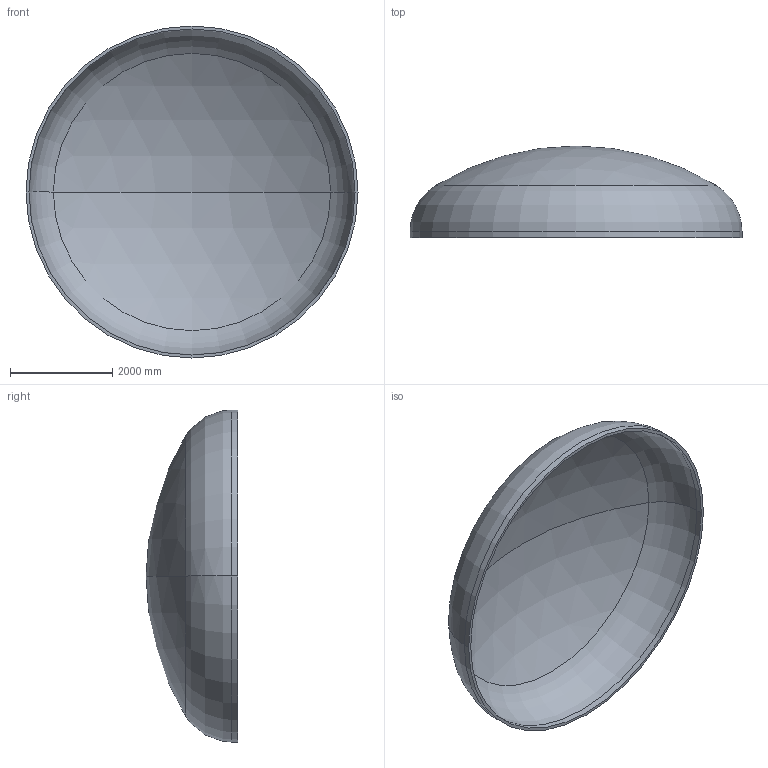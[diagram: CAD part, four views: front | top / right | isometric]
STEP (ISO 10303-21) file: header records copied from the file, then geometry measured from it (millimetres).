
FILE_DESCRIPTION (( 'STEP AP203' ), '1' );
FILE_NAME ('DIN 28013 Korbbogenform_-_Boden DIN 28013 - 6500 x 120 - I - s=58.step', '2016-07-04T10:42:40', ( '' ), ( '' ), 'SwSTEP 2.0', 'SolidWorks 2013', '' );
FILE_SCHEMA (( 'CONFIG_CONTROL_DESIGN' ));
Length unit declared in the file: millimetre
Products named in the file (1): DIN 28013 Korbbogenform_-_Boden DIN 28013 - 6500 x 120 - I - s=58
Bounding box: 6500 x 1795.38 x 6500 mm (x, y, z)
Volume: 2774647296 mm3; surface area: 96858313.8 mm2
Topology: 1 solids, 1 shells, 13 faces, 24 edges, 14 vertices
Faces by surface type: torus 4, cylinder 4, sphere 4, plane 1
Entity records: 407 total; most frequent: DIRECTION 72, CARTESIAN_POINT 52, ORIENTED_EDGE 48, AXIS2_PLACEMENT_3D 34, EDGE_CURVE 24, CIRCLE 20, VERTEX_POINT 14, EDGE_LOOP 14
